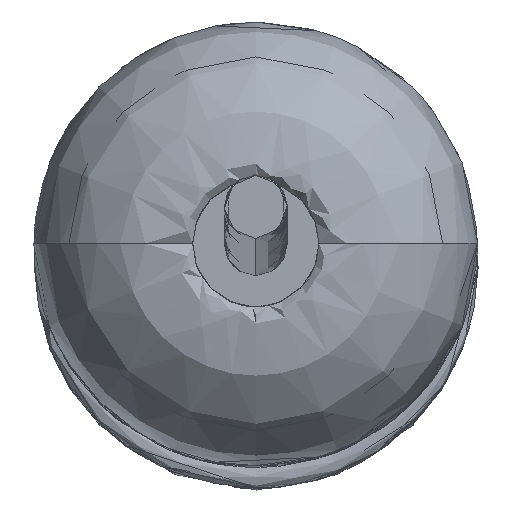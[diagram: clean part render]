
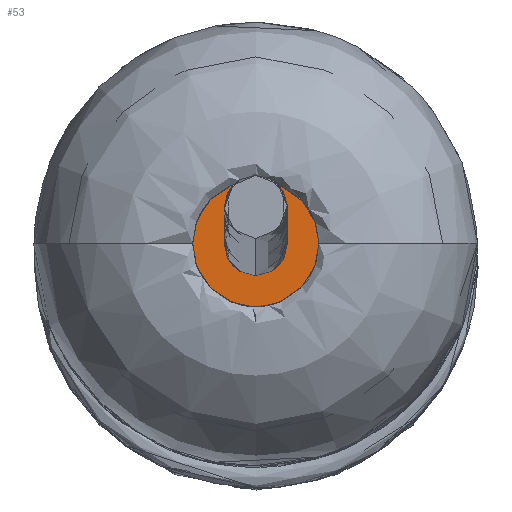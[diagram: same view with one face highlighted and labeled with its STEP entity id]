
A CAD part, top view. The second image highlights one B-rep face of the part: STEP entity #53.
In plain terms, the highlighted free-form (B-spline) face has degree [1, 1] with [2, 2] control points.
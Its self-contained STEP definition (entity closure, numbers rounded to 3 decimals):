
#53=ADVANCED_FACE('',(#81),#721,.T.);
#81=FACE_OUTER_BOUND('',#111,.T.);
#111=EDGE_LOOP('',(#203,#204));
#203=ORIENTED_EDGE('',*,*,#607,.T.);
#204=ORIENTED_EDGE('',*,*,#608,.T.);
#303=B_SPLINE_CURVE_WITH_KNOTS('',1,(#1891,#1892),.UNSPECIFIED.,.F.,.F.,
(2,2),(-29.845,0.),.UNSPECIFIED.);
#309=B_SPLINE_CURVE_WITH_KNOTS('',1,(#1903,#1904),.UNSPECIFIED.,.F.,.F.,
(2,2),(-59.69,-29.845),.UNSPECIFIED.);
#401=PCURVE('',#721,#501);
#402=PCURVE('',#721,#502);
#405=PCURVE('',#715,#505);
#409=PCURVE('',#716,#509);
#501=DEFINITIONAL_REPRESENTATION('',(#658),#1912);
#502=DEFINITIONAL_REPRESENTATION('',(#660),#1912);
#505=DEFINITIONAL_REPRESENTATION('',(#303),#1912);
#509=DEFINITIONAL_REPRESENTATION('',(#309),#1912);
#557=SURFACE_CURVE('',#657,(#401,#409),.PCURVE_S1.);
#558=SURFACE_CURVE('',#659,(#402,#405),.PCURVE_S1.);
#607=EDGE_CURVE('',#691,#692,#557,.T.);
#608=EDGE_CURVE('',#692,#691,#558,.T.);
#657=(
BOUNDED_CURVE()
B_SPLINE_CURVE(2,(#1851,#1852,#1853,#1854,#1855),.UNSPECIFIED.,.F.,.F.)
B_SPLINE_CURVE_WITH_KNOTS((3,2,3),(-59.69,-44.768,
-29.845),.UNSPECIFIED.)
CURVE()
GEOMETRIC_REPRESENTATION_ITEM()
RATIONAL_B_SPLINE_CURVE((1.,0.707,1.,0.707,1.))
REPRESENTATION_ITEM('')
);
#658=(
BOUNDED_CURVE()
B_SPLINE_CURVE(2,(#1856,#1857,#1858,#1859,#1860),.UNSPECIFIED.,.F.,.F.)
B_SPLINE_CURVE_WITH_KNOTS((3,2,3),(-59.69,-44.768,
-29.845),.UNSPECIFIED.)
CURVE()
GEOMETRIC_REPRESENTATION_ITEM()
RATIONAL_B_SPLINE_CURVE((1.,0.707,1.,0.707,1.))
REPRESENTATION_ITEM('')
);
#659=(
BOUNDED_CURVE()
B_SPLINE_CURVE(2,(#1861,#1862,#1863,#1864,#1865),.UNSPECIFIED.,.F.,.F.)
B_SPLINE_CURVE_WITH_KNOTS((3,2,3),(-29.845,-14.923,0.),
 .UNSPECIFIED.)
CURVE()
GEOMETRIC_REPRESENTATION_ITEM()
RATIONAL_B_SPLINE_CURVE((1.,0.707,1.,0.707,1.))
REPRESENTATION_ITEM('')
);
#660=(
BOUNDED_CURVE()
B_SPLINE_CURVE(2,(#1866,#1867,#1868,#1869,#1870),.UNSPECIFIED.,.F.,.F.)
B_SPLINE_CURVE_WITH_KNOTS((3,2,3),(-29.845,-14.923,0.),
 .UNSPECIFIED.)
CURVE()
GEOMETRIC_REPRESENTATION_ITEM()
RATIONAL_B_SPLINE_CURVE((1.,0.707,1.,0.707,1.))
REPRESENTATION_ITEM('')
);
#691=VERTEX_POINT('',#1847);
#692=VERTEX_POINT('',#1848);
#715=(
BOUNDED_SURFACE()
B_SPLINE_SURFACE(2,1,((#1827,#1828),(#1829,#1830),(#1831,#1832),(#1833,
#1834),(#1835,#1836)),.UNSPECIFIED.,.F.,.F.,.F.)
B_SPLINE_SURFACE_WITH_KNOTS((3,2,3),(2,2),(0.,14.923,29.845),
(0.,900.),.UNSPECIFIED.)
GEOMETRIC_REPRESENTATION_ITEM()
RATIONAL_B_SPLINE_SURFACE(((1.,1.),(0.707,0.707),
(1.,1.),(0.707,0.707),(1.,1.)))
REPRESENTATION_ITEM('')
SURFACE()
);
#716=(
BOUNDED_SURFACE()
B_SPLINE_SURFACE(2,1,((#1837,#1838),(#1839,#1840),(#1841,#1842),(#1843,
#1844),(#1845,#1846)),.UNSPECIFIED.,.F.,.F.,.F.)
B_SPLINE_SURFACE_WITH_KNOTS((3,2,3),(2,2),(29.845,44.768,
59.69),(0.,900.),.UNSPECIFIED.)
GEOMETRIC_REPRESENTATION_ITEM()
RATIONAL_B_SPLINE_SURFACE(((1.,1.),(0.707,0.707),
(1.,1.),(0.707,0.707),(1.,1.)))
REPRESENTATION_ITEM('')
SURFACE()
);
#721=B_SPLINE_SURFACE_WITH_KNOTS('',1,1,((#1819,#1820),(#1821,#1822)),
 .UNSPECIFIED.,.F.,.F.,.F.,(2,2),(2,2),(-9.69,9.69),
(-9.69,9.69),.UNSPECIFIED.);
#1819=CARTESIAN_POINT('',(1799.668,17.537,687.218));
#1820=CARTESIAN_POINT('',(1811.458,32.918,687.218));
#1821=CARTESIAN_POINT('',(1815.05,5.747,687.218));
#1822=CARTESIAN_POINT('',(1826.839,21.129,687.218));
#1827=CARTESIAN_POINT('',(1819.033,26.873,687.218));
#1828=CARTESIAN_POINT('',(1819.033,26.873,-95.609));
#1829=CARTESIAN_POINT('',(1826.573,21.094,687.218));
#1830=CARTESIAN_POINT('',(1826.573,21.094,-95.609));
#1831=CARTESIAN_POINT('',(1820.794,13.554,687.218));
#1832=CARTESIAN_POINT('',(1820.794,13.554,-95.609));
#1833=CARTESIAN_POINT('',(1815.015,6.014,687.218));
#1834=CARTESIAN_POINT('',(1815.015,6.014,-95.609));
#1835=CARTESIAN_POINT('',(1807.475,11.793,687.218));
#1836=CARTESIAN_POINT('',(1807.475,11.793,-95.609));
#1837=CARTESIAN_POINT('',(1807.475,11.793,687.218));
#1838=CARTESIAN_POINT('',(1807.475,11.793,-95.609));
#1839=CARTESIAN_POINT('',(1799.935,17.572,687.218));
#1840=CARTESIAN_POINT('',(1799.935,17.572,-95.609));
#1841=CARTESIAN_POINT('',(1805.714,25.112,687.218));
#1842=CARTESIAN_POINT('',(1805.714,25.112,-95.609));
#1843=CARTESIAN_POINT('',(1811.493,32.652,687.218));
#1844=CARTESIAN_POINT('',(1811.493,32.652,-95.609));
#1845=CARTESIAN_POINT('',(1819.033,26.873,687.218));
#1846=CARTESIAN_POINT('',(1819.033,26.873,-95.609));
#1847=CARTESIAN_POINT('',(1819.033,26.873,687.218));
#1848=CARTESIAN_POINT('',(1807.475,11.793,687.218));
#1851=CARTESIAN_POINT('',(1819.033,26.873,687.218));
#1852=CARTESIAN_POINT('',(1811.493,32.652,687.218));
#1853=CARTESIAN_POINT('',(1805.714,25.112,687.218));
#1854=CARTESIAN_POINT('',(1799.935,17.572,687.218));
#1855=CARTESIAN_POINT('',(1807.475,11.793,687.218));
#1856=CARTESIAN_POINT('',(0.,9.5));
#1857=CARTESIAN_POINT('',(-9.5,9.5));
#1858=CARTESIAN_POINT('',(-9.5,0.));
#1859=CARTESIAN_POINT('',(-9.5,-9.5));
#1860=CARTESIAN_POINT('',(0.,-9.5));
#1861=CARTESIAN_POINT('',(1807.475,11.793,687.218));
#1862=CARTESIAN_POINT('',(1815.015,6.014,687.218));
#1863=CARTESIAN_POINT('',(1820.794,13.554,687.218));
#1864=CARTESIAN_POINT('',(1826.573,21.094,687.218));
#1865=CARTESIAN_POINT('',(1819.033,26.873,687.218));
#1866=CARTESIAN_POINT('',(0.,-9.5));
#1867=CARTESIAN_POINT('',(9.5,-9.5));
#1868=CARTESIAN_POINT('',(9.5,0.));
#1869=CARTESIAN_POINT('',(9.5,9.5));
#1870=CARTESIAN_POINT('',(0.,9.5));
#1891=CARTESIAN_POINT('',(29.845,0.));
#1892=CARTESIAN_POINT('',(0.,0.));
#1903=CARTESIAN_POINT('',(59.69,0.));
#1904=CARTESIAN_POINT('',(29.845,0.));
#1912=(
GEOMETRIC_REPRESENTATION_CONTEXT(2)
PARAMETRIC_REPRESENTATION_CONTEXT()
REPRESENTATION_CONTEXT('pspace','')
);
